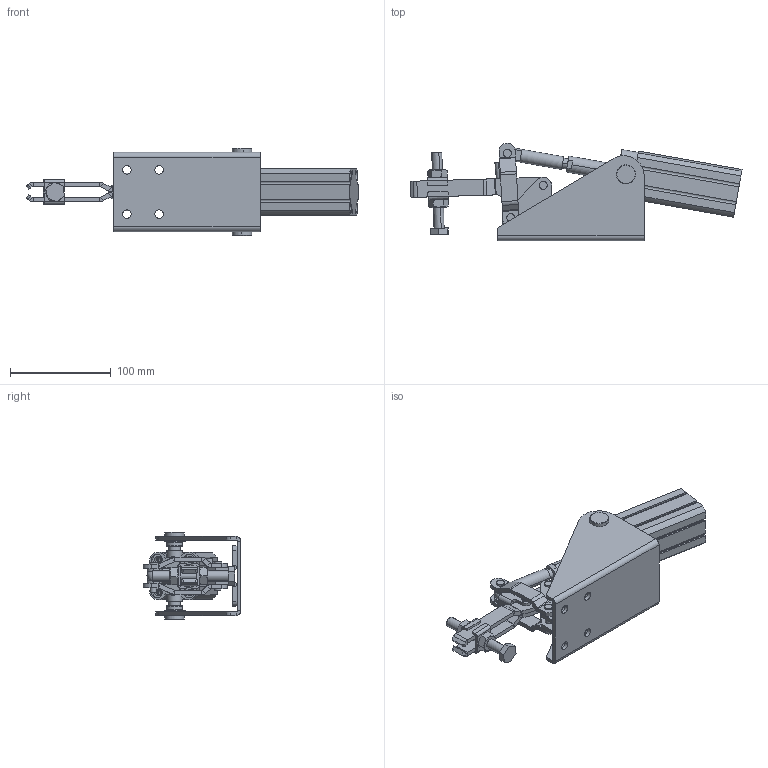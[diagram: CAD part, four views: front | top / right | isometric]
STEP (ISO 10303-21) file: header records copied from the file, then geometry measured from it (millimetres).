
FILE_DESCRIPTION (( 'STEP AP203' ), '1' );
FILE_NAME ('KF-011 DB P.STEP', '2014-08-28T17:17:34', ( 'Ricardo' ), ( '' ), 'SwSTEP 2.0', 'SolidWorks 2013', '' );
FILE_SCHEMA (( 'CONFIG_CONTROL_DESIGN' ));
Length unit declared in the file: millimetre
Products named in the file (21): 14.10003; 15.10052; 501-016; 15.20006; 02.12009_Direita; HI_CD55B32-60(0)_BODY; 16.20067; 02.12009_Esquerda; HI_C55B32-60M(0)_ROD; CNKFE032KT; 01.10088; CD55B32-60M_avan㌢do; 03.13005_Direita; 04.10002; KF-011 DB P; 03.13005_Esquerda; 04.20002; 12.50004; 06.50007; 11.50003; 06.50008
Assembly tree (27 placements, depth 3):
  KF-011 DB P
    02.12009_Direita
    02.12009_Esquerda
    01.10088  x2
    04.10002
    04.20002
    06.50007  x2
    06.50008  x2
    15.10052
    15.20006
    16.20067  x2
    CNKFE032KT
    03.13005_Direita
    03.13005_Esquerda
    12.50004
    11.50003  x2
    14.10003  x2
    501-016  x2
    CD55B32-60M_avan㌢do
      HI_CD55B32-60(0)_BODY
      HI_C55B32-60M(0)_ROD
Bounding box: 328.73 x 96.73 x 86.5 mm (x, y, z)
Volume: 358008.3 mm3; surface area: 173734.2 mm2
Topology: 26 solids, 26 shells, 766 faces, 1774 edges, 1091 vertices
Faces by surface type: cylinder 352, plane 349, cone 64, sphere 1
Entity records: 20328 total; most frequent: DIRECTION 3311, CARTESIAN_POINT 3261, ORIENTED_EDGE 2838, EDGE_CURVE 1419, AXIS2_PLACEMENT_3D 1264, VERTEX_POINT 886, VECTOR 783, LINE 783
